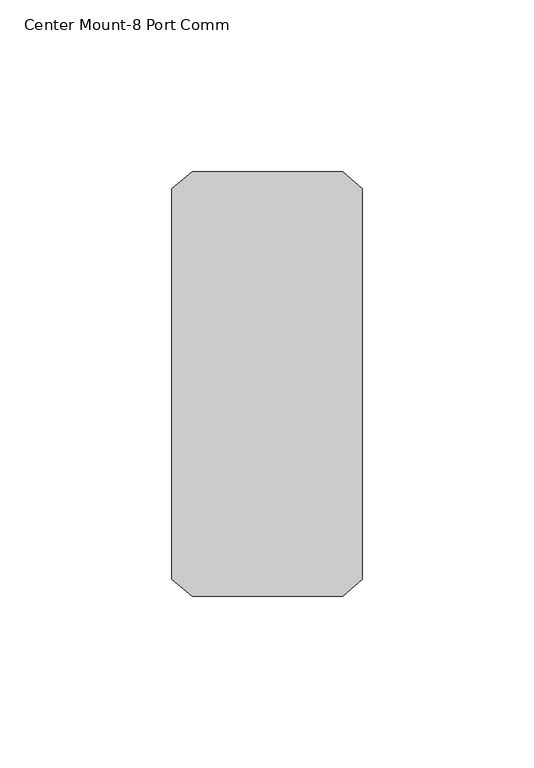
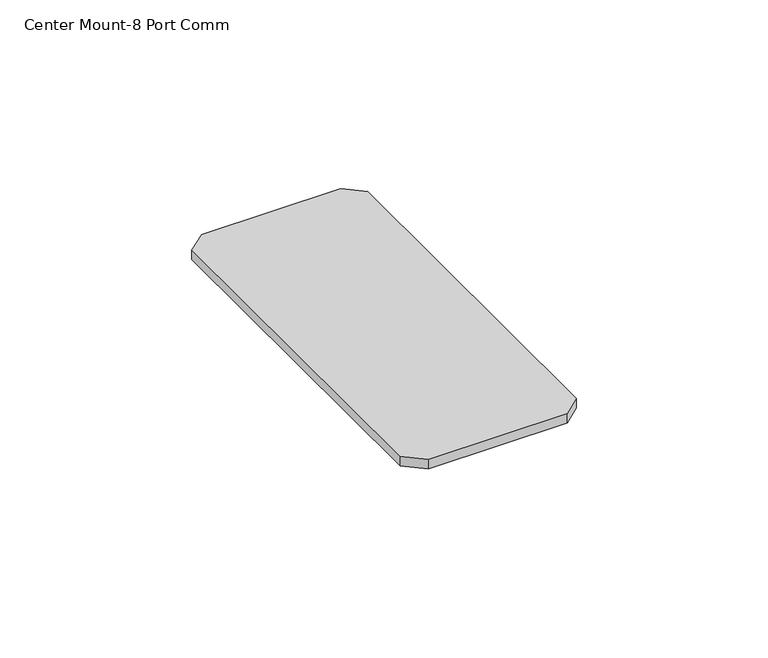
"""IFC4 building model written with IfcOpenShell, lengths in millimetres: proxy geometry, Device_Plate-Evolution_Poke_Thru_6AT_Series-Wiremold : Center Mount-8 Port Comm."""

from ifc_helpers import new_model, si_unit, origin, origin_with_axes, place, context, project, spatial, polyline, outline, extrude, source, transform, mapped, element, save


def center_mount_8_port_comm_47faeaf6(model_context):
    return source(origin(), model_context, "Body", "SweptSolid", [
        extrude(outline(polyline([(-21.8163935, 61.9125), (22.0523137, 61.9125), (27.78125, 56.9197167), (27.78125, -56.9197167), (22.0523137, -61.9125), (-21.8163935, -61.9125), (-27.78125, -56.9197167), (-27.78125, 56.9197167), (-21.8163935, 61.9125)])), origin_with_axes(), (0.0, 0.0, 1.0), 3.175),
    ])


if __name__ == "__main__":
    model = new_model("IFC4")
    model_context = context("Model", 3, world=origin())
    ifc_project = project(units=[si_unit("LENGTHUNIT", "METRE", prefix="MILLI")], contexts=[model_context])
    site = spatial("IfcSite", under=ifc_project)
    building = spatial("IfcBuilding", under=site)
    placement = place(None, origin())
    center_mount_8_port_comm_shape = center_mount_8_port_comm_47faeaf6(model_context)
    element("IfcBuildingElementProxy", 1, Name="Device_Plate-Evolution_Poke_Thru_6AT_Series-Wiremold : Center Mount-8 Port Comm", ObjectType="Device_Plate-Evolution_Poke_Thru_6AT_Series-Wiremold : Center Mount-8 Port Comm", at=placement, inside=building, context=model_context, shape_type="MappedRepresentation", body=[
        mapped(center_mount_8_port_comm_shape, transform((0.0, 0.0, 0.0), x_axis=(1.0, 0.0, 0.0), y_axis=(0.0, 1.0, 0.0), z_axis=(0.0, 0.0, 1.0))),
    ])
    save(model, "model.ifc")
